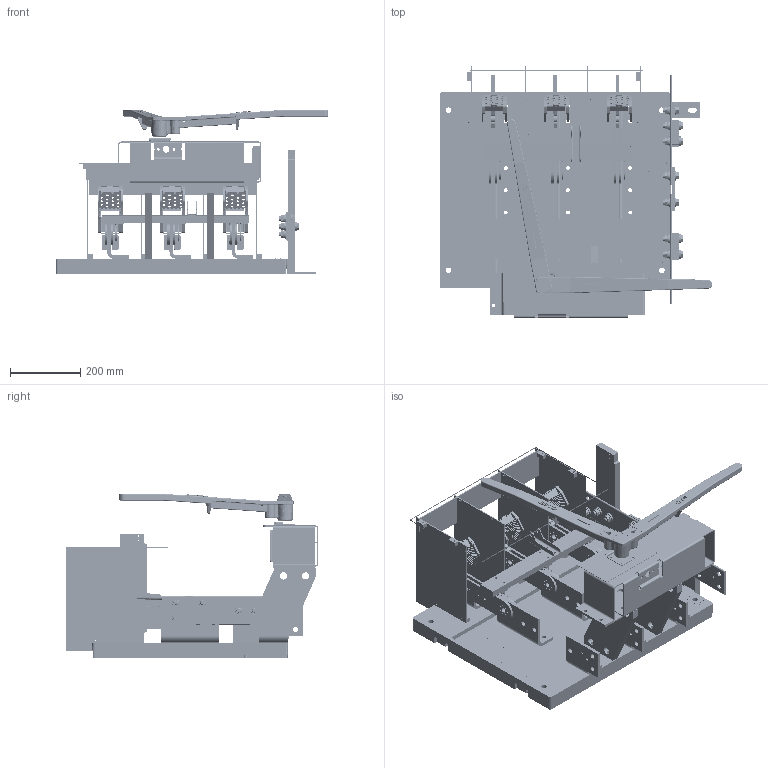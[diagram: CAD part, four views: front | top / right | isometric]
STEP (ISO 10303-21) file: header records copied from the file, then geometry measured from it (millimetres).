
FILE_DESCRIPTION(/* description */ (''),/* implementation_level */ '2;1');
FILE_NAME(/* name */ 'H:\switches\3d-templates\catalog-switches-iges-files\catalog-vl467N.stp',/* time_stamp */ '2022-03-22T13:52:02-05:00',/* author */ ('MKingston'),/* organization */ (''),/* preprocessor_version */ 'ST-DEVELOPER v18.1',/* originating_system */ 'Autodesk Inventor 2022',/* authorisation */ '');
FILE_SCHEMA (('AUTOMOTIVE_DESIGN { 1 0 10303 214 3 1 1 }'));
Products named in the file (47): catalog-vl367; 277; 666-d; 666-E; 668-c; 820-bw1; 820-fw3; 223-d-transparent; catalog-blade-assy; 67-AL; 67-AR; 67-gc3; 67-M; 235-b; 230-a; 255-z; catalog-56-qj-arcchute-assy; 363-da; 363-da_MIR; 50-QLX; 50-QRX; 56-QJS; 57-QJSB; 57-QJST; 255-bha; 246-a; 221-RP,R3; 800-vl-neutral-assembly; 676-h; 677-a; 675-a; 675-df; 675-ba; 678-r; Bolted Connection; ANSI B18.2.1 - 1/2-13 UNC - 1.5, HCSI; Bolted Connection_1; ANSI B18.2.1 - 1/2-13 UNC - 2, HCSI; ASTM F436 - 1/2, CW; ASME B18.21.1 - 1/2, RHSLW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
Assembly tree (113 placements, depth 4):
  catalog-vl367
    277
    666-d  x3
    666-E  x3
    668-c  x3
    820-bw1
    820-fw3
    223-d-transparent
    catalog-blade-assy  x3
      67-AL
      67-AR
      67-gc3
      67-M
    235-b
    230-a
    255-z
    catalog-56-qj-arcchute-assy  x3
      363-da
      363-da_MIR
      50-QLX
      50-QRX
      56-QJS
      57-QJSB
      57-QJST
    255-bha  x4
    246-a  x2
    221-RP,R3
    800-vl-neutral-assembly
      676-h  x2
      677-a
      675-a
      675-df  x2
      675-ba
      678-r
      Bolted Connection
        ASTM F436 - 1/2, CW  x10
        ANSI B18.2.1 - 1/2-13 UNC - 1.5, HCSI  x5
        ASME B18.21.1 - 1/2, RHSLW  x5
        AS 2465 - 1/2  UNC  x5
      Bolted Connection_1
        ASTM F436 - 1/2, CW  x8
        ANSI B18.2.1 - 1/2-13 UNC - 2, HCSI  x4
        ASME B18.21.1 - 1/2, RHSLW  x4
        AS 2465 - 1/2  UNC  x4
    178-c  x8
    255-c
    178-b  x4
    672-HA
    223-FE
    223-d-transparent-red
Bounding box: 779.42 x 718.82 x 469.37 mm (x, y, z)
Volume: 15645935.3 mm3; surface area: 3959642.3 mm2
Topology: 135 solids, 136 shells, 5033 faces, 12888 edges, 8402 vertices
Faces by surface type: plane 2617, cylinder 1291, cone 617, bspline 443, torus 65
Full cylindrical faces by diameter (mm): 1.702 x8, 3.175 x4, 3.454 x4, 3.581 x2, 3.683 x8, 3.759 x12, 3.962 x5, 4.305 x42, 4.496 x24, 4.762 x4, 4.775 x8, 4.801 x8, 4.902 x8, 4.915 x24, 4.978 x3, 5.556 x3, 5.791 x6, 6.35 x40, 6.528 x43, 7.137 x3, 7.144 x12, 7.798 x2, 7.938 x18, 8.331 x2, 8.731 x2, 9.601 x2, 9.804 x2, 9.906 x13, 9.922 x8, 10.312 x22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
Entity records: 96312 total; most frequent: CARTESIAN_POINT 24986, ORIENTED_EDGE 14438, DIRECTION 14095, EDGE_CURVE 7227, AXIS2_PLACEMENT_3D 4861, VERTEX_POINT 4710, LINE 4373, VECTOR 4373
